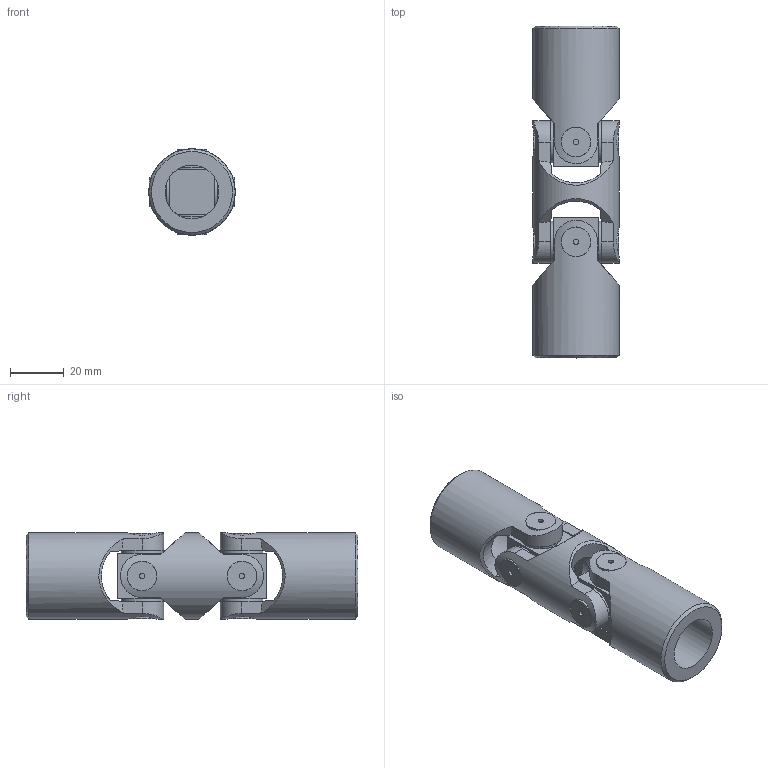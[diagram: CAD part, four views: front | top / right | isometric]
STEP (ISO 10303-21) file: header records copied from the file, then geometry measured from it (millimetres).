
FILE_DESCRIPTION(/* description */ (''),/* implementation_level */ '2;1');
FILE_NAME(/* name */ '\\SRV2016\Societa\Stefano\Disegni 3D\00Catalogo 3D\02Doppi GD-GBD\SGBD2000.stp',/* time_stamp */ '2021-11-22T17:25:41+01:00',/* author */ ('acquisti'),/* organization */ (''),/* preprocessor_version */ 'ST-DEVELOPER v15.6',/* originating_system */ 'Autodesk Inventor 2015',/* authorisation */ '');
FILE_SCHEMA (('AUTOMOTIVE_DESIGN { 1 0 10303 214 3 1 1 }'));
Length unit declared in the file: millimetre
Products named in the file (4): 1G MOD; 1G SFE; 3GB MOS; Ø32_3GBD-00_SGBD2000
Assembly tree (5 placements, depth 2):
  Ø32_3GBD-00_SGBD2000
    1G MOD
    1G SFE  x2
    3GB MOS  x2
Bounding box: 32 x 123 x 32 mm (x, y, z)
Volume: 61358.3 mm3; surface area: 24746.8 mm2
Topology: 5 solids, 5 shells, 163 faces, 381 edges, 246 vertices
Faces by surface type: plane 74, cylinder 63, cone 20, torus 6
Full cylindrical faces by diameter (mm): 2 x8, 15.5 x8, 18 x2, 20 x2, 32 x3
Entity records: 3732 total; most frequent: CARTESIAN_POINT 1288, DIRECTION 478, ORIENTED_EDGE 476, EDGE_CURVE 238, AXIS2_PLACEMENT_3D 212, VERTEX_POINT 164, EDGE_LOOP 150, FACE_OUTER_BOUND 113
